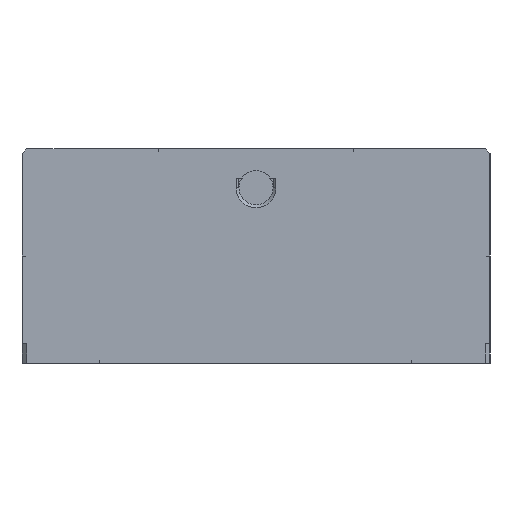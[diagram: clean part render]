
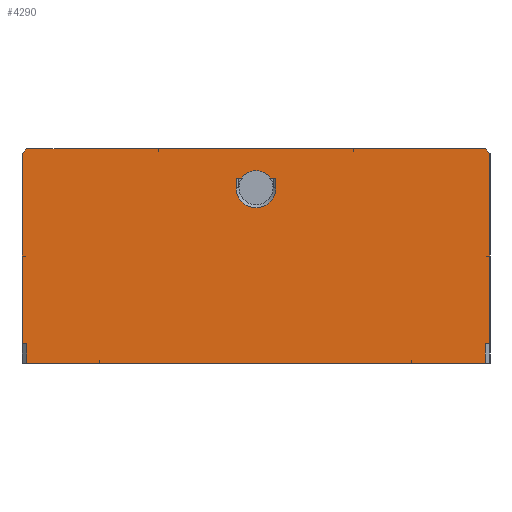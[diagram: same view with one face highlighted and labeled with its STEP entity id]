
A CAD part, left-side view. The second image highlights one B-rep face of the part: STEP entity #4290.
In plain terms, the highlighted planar face has unit normal (-1, 0, 0).
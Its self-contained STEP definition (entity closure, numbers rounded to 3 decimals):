
#85=DIRECTION('',(0.,-1.,0.));
#86=VECTOR('',#85,0.5);
#87=CARTESIAN_POINT('',(-30.,-23.5,0.));
#88=LINE('',#87,#86);
#113=DIRECTION('',(0.,-1.,0.));
#114=VECTOR('',#113,0.5);
#115=CARTESIAN_POINT('',(-30.,24.,0.));
#116=LINE('',#115,#114);
#310=DIRECTION('',(0.,1.,0.));
#311=VECTOR('',#310,7.5);
#312=CARTESIAN_POINT('',(-30.,16.,-2.));
#313=LINE('',#312,#311);
#324=DIRECTION('',(0.,1.,0.));
#325=VECTOR('',#324,32.);
#326=CARTESIAN_POINT('',(-30.,-16.,-2.));
#327=LINE('',#326,#325);
#338=DIRECTION('',(0.,1.,0.));
#339=VECTOR('',#338,7.5);
#340=CARTESIAN_POINT('',(-30.,-23.5,-2.));
#341=LINE('',#340,#339);
#406=DIRECTION('',(0.,0.,1.));
#407=VECTOR('',#406,9.);
#408=CARTESIAN_POINT('',(-30.,-24.,0.));
#409=LINE('',#408,#407);
#420=DIRECTION('',(0.,0.,1.));
#421=VECTOR('',#420,10.5);
#422=CARTESIAN_POINT('',(-30.,-24.,9.));
#423=LINE('',#422,#421);
#741=DIRECTION('',(0.,0.,1.));
#742=VECTOR('',#741,2.);
#743=CARTESIAN_POINT('',(-30.,-23.5,-2.));
#744=LINE('',#743,#742);
#745=DIRECTION('',(0.,0.,1.));
#746=VECTOR('',#745,2.);
#747=CARTESIAN_POINT('',(-30.,23.5,-2.));
#748=LINE('',#747,#746);
#749=DIRECTION('',(0.,0.,1.));
#750=VECTOR('',#749,9.);
#751=CARTESIAN_POINT('',(-30.,24.,0.));
#752=LINE('',#751,#750);
#753=DIRECTION('',(0.,0.,1.));
#754=VECTOR('',#753,10.5);
#755=CARTESIAN_POINT('',(-30.,24.,9.));
#756=LINE('',#755,#754);
#757=DIRECTION('',(0.,0.707,-0.707));
#758=VECTOR('',#757,0.707);
#759=CARTESIAN_POINT('',(-30.,23.5,20.));
#760=LINE('',#759,#758);
#761=DIRECTION('',(0.,0.707,0.707));
#762=VECTOR('',#761,0.707);
#763=CARTESIAN_POINT('',(-30.,-24.,19.5));
#764=LINE('',#763,#762);
#765=CARTESIAN_POINT('',(-30.,0.,16.));
#766=DIRECTION('',(-1.,0.,0.));
#767=DIRECTION('',(0.,0.,1.));
#768=AXIS2_PLACEMENT_3D('',#765,#766,#767);
#770=DIRECTION('',(0.,1.,0.));
#771=VECTOR('',#770,0.614);
#772=CARTESIAN_POINT('',(-30.,1.436,17.));
#773=LINE('',#772,#771);
#774=DIRECTION('',(0.,0.,1.));
#775=VECTOR('',#774,1.);
#776=CARTESIAN_POINT('',(-30.,2.05,16.));
#777=LINE('',#776,#775);
#778=CARTESIAN_POINT('',(-30.,0.,16.));
#779=DIRECTION('',(1.,0.,0.));
#780=DIRECTION('',(0.,-1.,0.));
#781=AXIS2_PLACEMENT_3D('',#778,#779,#780);
#783=DIRECTION('',(0.,0.,-1.));
#784=VECTOR('',#783,1.);
#785=CARTESIAN_POINT('',(-30.,-2.05,17.));
#786=LINE('',#785,#784);
#787=DIRECTION('',(0.,1.,0.));
#788=VECTOR('',#787,0.614);
#789=CARTESIAN_POINT('',(-30.,-2.05,17.));
#790=LINE('',#789,#788);
#791=CARTESIAN_POINT('',(-30.,0.,16.));
#792=DIRECTION('',(-1.,0.,0.));
#793=DIRECTION('',(0.,-0.821,0.571));
#794=AXIS2_PLACEMENT_3D('',#791,#792,#793);
#1925=DIRECTION('',(0.,-1.,0.));
#1926=VECTOR('',#1925,13.5);
#1927=CARTESIAN_POINT('',(-30.,23.5,20.));
#1928=LINE('',#1927,#1926);
#1969=DIRECTION('',(0.,-1.,0.));
#1970=VECTOR('',#1969,13.5);
#1971=CARTESIAN_POINT('',(-30.,-10.,20.));
#1972=LINE('',#1971,#1970);
#1983=DIRECTION('',(0.,-1.,0.));
#1984=VECTOR('',#1983,20.);
#1985=CARTESIAN_POINT('',(-30.,10.,20.));
#1986=LINE('',#1985,#1984);
#2609=CARTESIAN_POINT('',(-30.,23.5,20.));
#2610=CARTESIAN_POINT('',(-30.,24.,19.5));
#2611=VERTEX_POINT('',#2609);
#2612=VERTEX_POINT('',#2610);
#2653=CARTESIAN_POINT('',(-30.,-24.,19.5));
#2654=VERTEX_POINT('',#2653);
#2655=CARTESIAN_POINT('',(-30.,-23.5,20.));
#2656=VERTEX_POINT('',#2655);
#2703=CARTESIAN_POINT('',(-30.,-10.,20.));
#2705=VERTEX_POINT('',#2703);
#2723=CARTESIAN_POINT('',(-30.,10.,20.));
#2725=VERTEX_POINT('',#2723);
#2750=CARTESIAN_POINT('',(-30.,24.,9.));
#2752=VERTEX_POINT('',#2750);
#2753=CARTESIAN_POINT('',(-30.,24.,0.));
#2754=VERTEX_POINT('',#2753);
#2771=CARTESIAN_POINT('',(-30.,-24.,9.));
#2772=VERTEX_POINT('',#2771);
#2797=CARTESIAN_POINT('',(-30.,-24.,0.));
#2798=VERTEX_POINT('',#2797);
#3081=CARTESIAN_POINT('',(-30.,-2.05,16.));
#3082=CARTESIAN_POINT('',(-30.,2.05,16.));
#3083=VERTEX_POINT('',#3081);
#3084=VERTEX_POINT('',#3082);
#3133=CARTESIAN_POINT('',(-30.,2.05,17.));
#3134=VERTEX_POINT('',#3133);
#3135=CARTESIAN_POINT('',(-30.,-2.05,17.));
#3136=VERTEX_POINT('',#3135);
#3189=CARTESIAN_POINT('',(-30.,-16.,-2.));
#3191=VERTEX_POINT('',#3189);
#3197=CARTESIAN_POINT('',(-30.,16.,-2.));
#3199=VERTEX_POINT('',#3197);
#3218=CARTESIAN_POINT('',(-30.,-23.5,-2.));
#3220=VERTEX_POINT('',#3218);
#3225=CARTESIAN_POINT('',(-30.,23.5,-2.));
#3227=VERTEX_POINT('',#3225);
#3265=CARTESIAN_POINT('',(-30.,-23.5,0.));
#3267=VERTEX_POINT('',#3265);
#3274=CARTESIAN_POINT('',(-30.,23.5,0.));
#3276=VERTEX_POINT('',#3274);
#3309=CARTESIAN_POINT('',(-30.,0.,17.75));
#3310=CARTESIAN_POINT('',(-30.,1.436,17.));
#3311=VERTEX_POINT('',#3309);
#3312=VERTEX_POINT('',#3310);
#3313=CARTESIAN_POINT('',(-30.,-1.436,17.));
#3314=VERTEX_POINT('',#3313);
#4246=CARTESIAN_POINT('',(-30.,24.,0.));
#4247=DIRECTION('',(-1.,0.,0.));
#4248=DIRECTION('',(0.,-1.,0.));
#4249=AXIS2_PLACEMENT_3D('',#4246,#4247,#4248);
#4250=PLANE('',#4249);
#4251=ORIENTED_EDGE('',*,*,#3412,.F.);
#4252=ORIENTED_EDGE('',*,*,#3786,.F.);
#4253=ORIENTED_EDGE('',*,*,#3754,.T.);
#4254=ORIENTED_EDGE('',*,*,#3749,.T.);
#4255=ORIENTED_EDGE('',*,*,#3743,.T.);
#4257=ORIENTED_EDGE('',*,*,#4256,.T.);
#4258=ORIENTED_EDGE('',*,*,#3442,.F.);
#4260=ORIENTED_EDGE('',*,*,#4259,.T.);
#4262=ORIENTED_EDGE('',*,*,#4261,.T.);
#4264=ORIENTED_EDGE('',*,*,#4263,.F.);
#4266=ORIENTED_EDGE('',*,*,#4265,.T.);
#4268=ORIENTED_EDGE('',*,*,#4267,.T.);
#4270=ORIENTED_EDGE('',*,*,#4269,.T.);
#4272=ORIENTED_EDGE('',*,*,#4271,.F.);
#4273=ORIENTED_EDGE('',*,*,#3808,.F.);
#4274=ORIENTED_EDGE('',*,*,#3802,.F.);
#4275=EDGE_LOOP('',(#4251,#4252,#4253,#4254,#4255,#4257,#4258,#4260,#4262,#4264,
#4266,#4268,#4270,#4272,#4273,#4274));
#4276=FACE_OUTER_BOUND('',#4275,.F.);
#4277=ORIENTED_EDGE('',*,*,#4224,.T.);
#4278=ORIENTED_EDGE('',*,*,#4214,.T.);
#4280=ORIENTED_EDGE('',*,*,#4279,.F.);
#4282=ORIENTED_EDGE('',*,*,#4281,.F.);
#4284=ORIENTED_EDGE('',*,*,#4283,.F.);
#4285=ORIENTED_EDGE('',*,*,#4162,.T.);
#4287=ORIENTED_EDGE('',*,*,#4286,.T.);
#4288=EDGE_LOOP('',(#4277,#4278,#4280,#4282,#4284,#4285,#4287));
#4289=FACE_BOUND('',#4288,.F.);
#769=CIRCLE('',#768,1.75);
#782=CIRCLE('',#781,2.05);
#795=CIRCLE('',#794,1.75);
#3412=EDGE_CURVE('',#3267,#2798,#88,.T.);
#3442=EDGE_CURVE('',#2754,#3276,#116,.T.);
#3743=EDGE_CURVE('',#3199,#3227,#313,.T.);
#3749=EDGE_CURVE('',#3191,#3199,#327,.T.);
#3754=EDGE_CURVE('',#3220,#3191,#341,.T.);
#3786=EDGE_CURVE('',#3220,#3267,#744,.T.);
#3802=EDGE_CURVE('',#2798,#2772,#409,.T.);
#3808=EDGE_CURVE('',#2772,#2654,#423,.T.);
#4162=EDGE_CURVE('',#3136,#3314,#790,.T.);
#4214=EDGE_CURVE('',#3312,#3134,#773,.T.);
#4224=EDGE_CURVE('',#3311,#3312,#769,.T.);
#4256=EDGE_CURVE('',#3227,#3276,#748,.T.);
#4259=EDGE_CURVE('',#2754,#2752,#752,.T.);
#4261=EDGE_CURVE('',#2752,#2612,#756,.T.);
#4263=EDGE_CURVE('',#2611,#2612,#760,.T.);
#4265=EDGE_CURVE('',#2611,#2725,#1928,.T.);
#4267=EDGE_CURVE('',#2725,#2705,#1986,.T.);
#4269=EDGE_CURVE('',#2705,#2656,#1972,.T.);
#4271=EDGE_CURVE('',#2654,#2656,#764,.T.);
#4279=EDGE_CURVE('',#3084,#3134,#777,.T.);
#4281=EDGE_CURVE('',#3083,#3084,#782,.T.);
#4283=EDGE_CURVE('',#3136,#3083,#786,.T.);
#4286=EDGE_CURVE('',#3314,#3311,#795,.T.);
#4290=ADVANCED_FACE('',(#4276,#4289),#4250,.T.);
